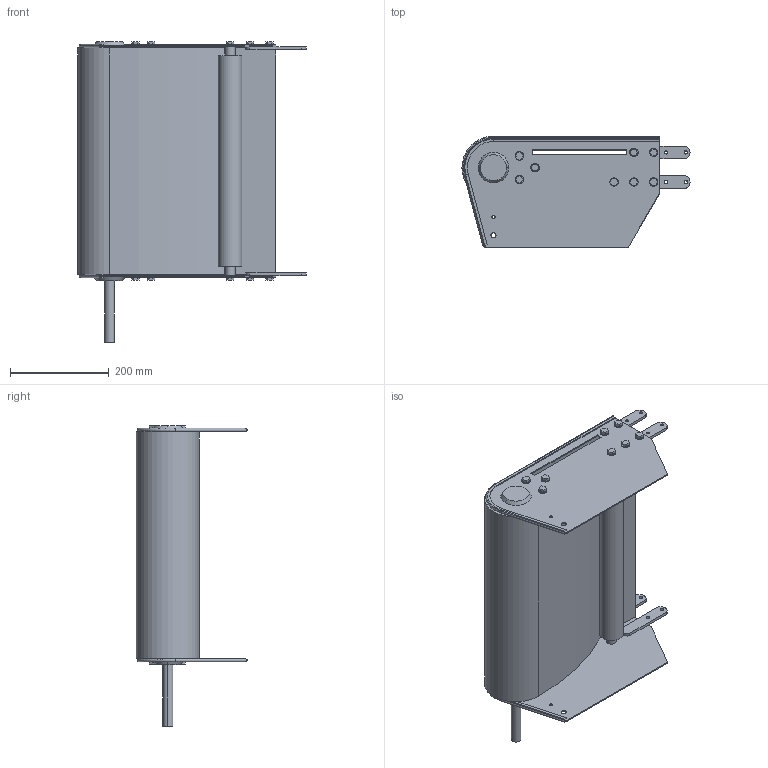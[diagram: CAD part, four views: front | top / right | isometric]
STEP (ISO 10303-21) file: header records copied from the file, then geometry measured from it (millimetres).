
FILE_DESCRIPTION (( 'STEP AP214' ), '1' );
FILE_NAME ('03.102D1R20.470 FS-470-MTS2-100.INOX Directe drive section right.STEP', '2025-02-04T12:38:15', ( '' ), ( '' ), 'SwSTEP 2.0', 'SolidWorks 2024', '' );
FILE_SCHEMA (( 'AUTOMOTIVE_DESIGN' ));
Length unit declared in the file: millimetre
Products named in the file (1): 03.102D1R20.470 FS-470-MTS2-100.INOX Directe drive section right
Bounding box: 461 x 225 x 608 mm (x, y, z)
Volume: 5614458.1 mm3; surface area: 1355435.5 mm2
Topology: 4 solids, 4 shells, 325 faces, 794 edges, 516 vertices
Faces by surface type: plane 223, cylinder 96, cone 4, torus 2
Entity records: 9602 total; most frequent: DIRECTION 1650, CARTESIAN_POINT 1636, ORIENTED_EDGE 1588, EDGE_CURVE 794, LINE 590, VECTOR 590, AXIS2_PLACEMENT_3D 530, VERTEX_POINT 516
